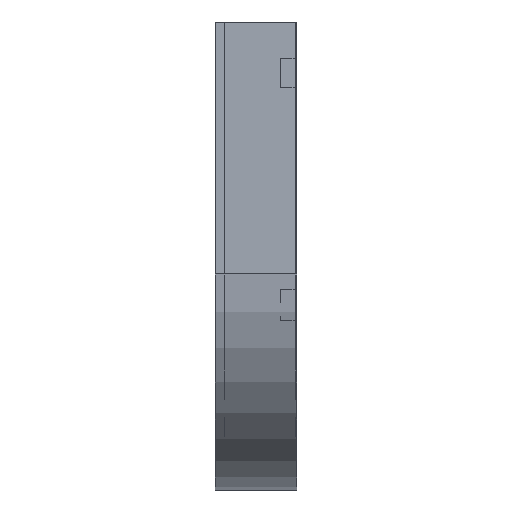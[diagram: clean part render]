
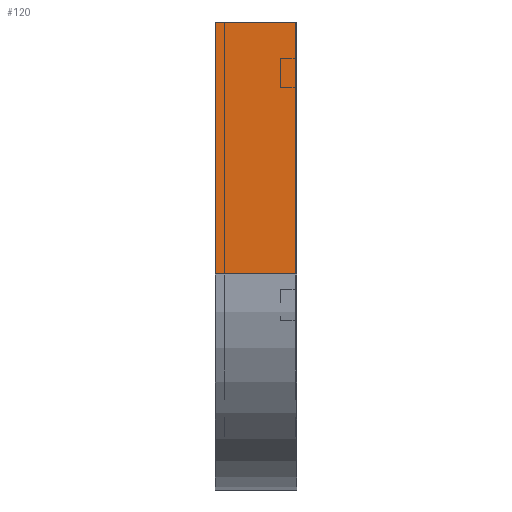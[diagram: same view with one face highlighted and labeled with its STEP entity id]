
A CAD part, left-side view. The second image highlights one B-rep face of the part: STEP entity #120.
In plain terms, the highlighted planar face has unit normal (-1, 0, 0).
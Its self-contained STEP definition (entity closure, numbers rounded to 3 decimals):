
#19 = ORIENTED_EDGE ( 'NONE', *, *, #1172, .F. ) ;
#41 = CARTESIAN_POINT ( 'NONE',  ( 0., 112.5, 0. ) ) ;
#99 = EDGE_CURVE ( 'NONE', #930, #1739, #1298, .T. ) ;
#120 = ADVANCED_FACE ( 'NONE', ( #1158 ), #1001, .F. ) ;
#133 = VECTOR ( 'NONE', #880, 1000. ) ;
#210 = LINE ( 'NONE', #646, #1775 ) ;
#231 = CARTESIAN_POINT ( 'NONE',  ( 0., 0., 0. ) ) ;
#287 = ORIENTED_EDGE ( 'NONE', *, *, #1478, .F. ) ;
#305 = CARTESIAN_POINT ( 'NONE',  ( 0., 0., -350. ) ) ;
#374 = VECTOR ( 'NONE', #435, 1000. ) ;
#435 = DIRECTION ( 'NONE',  ( 0., -1., 0. ) ) ;
#646 = CARTESIAN_POINT ( 'NONE',  ( 0., 112.5, 0. ) ) ;
#734 = DIRECTION ( 'NONE',  ( 0., 0., -1. ) ) ;
#828 = LINE ( 'NONE', #1404, #374 ) ;
#848 = VERTEX_POINT ( 'NONE', #41 ) ;
#862 = EDGE_CURVE ( 'NONE', #848, #930, #210, .T. ) ;
#880 = DIRECTION ( 'NONE',  ( 0., -1., 0. ) ) ;
#901 = LINE ( 'NONE', #1353, #1831 ) ;
#930 = VERTEX_POINT ( 'NONE', #1428 ) ;
#934 = ORIENTED_EDGE ( 'NONE', *, *, #99, .T. ) ;
#1001 = PLANE ( 'NONE',  #1673 ) ;
#1149 = DIRECTION ( 'NONE',  ( 0., 0., -1. ) ) ;
#1158 = FACE_OUTER_BOUND ( 'NONE', #1672, .T. ) ;
#1172 = EDGE_CURVE ( 'NONE', #1825, #1739, #901, .T. ) ;
#1298 = LINE ( 'NONE', #305, #133 ) ;
#1315 = CARTESIAN_POINT ( 'NONE',  ( 0., 0., -350. ) ) ;
#1353 = CARTESIAN_POINT ( 'NONE',  ( 0., 0., 0. ) ) ;
#1404 = CARTESIAN_POINT ( 'NONE',  ( 0., 0., 0. ) ) ;
#1428 = CARTESIAN_POINT ( 'NONE',  ( 0., 112.5, -350. ) ) ;
#1478 = EDGE_CURVE ( 'NONE', #848, #1825, #828, .T. ) ;
#1565 = ORIENTED_EDGE ( 'NONE', *, *, #862, .T. ) ;
#1583 = CARTESIAN_POINT ( 'NONE',  ( 0., 0., 0. ) ) ;
#1672 = EDGE_LOOP ( 'NONE', ( #19, #287, #1565, #934 ) ) ;
#1673 = AXIS2_PLACEMENT_3D ( 'NONE', #1583, #1759, #1149 ) ;
#1739 = VERTEX_POINT ( 'NONE', #1315 ) ;
#1759 = DIRECTION ( 'NONE',  ( 1., 0., 0. ) ) ;
#1775 = VECTOR ( 'NONE', #1791, 1000. ) ;
#1791 = DIRECTION ( 'NONE',  ( 0., 0., -1. ) ) ;
#1825 = VERTEX_POINT ( 'NONE', #231 ) ;
#1831 = VECTOR ( 'NONE', #734, 1000. ) ;
